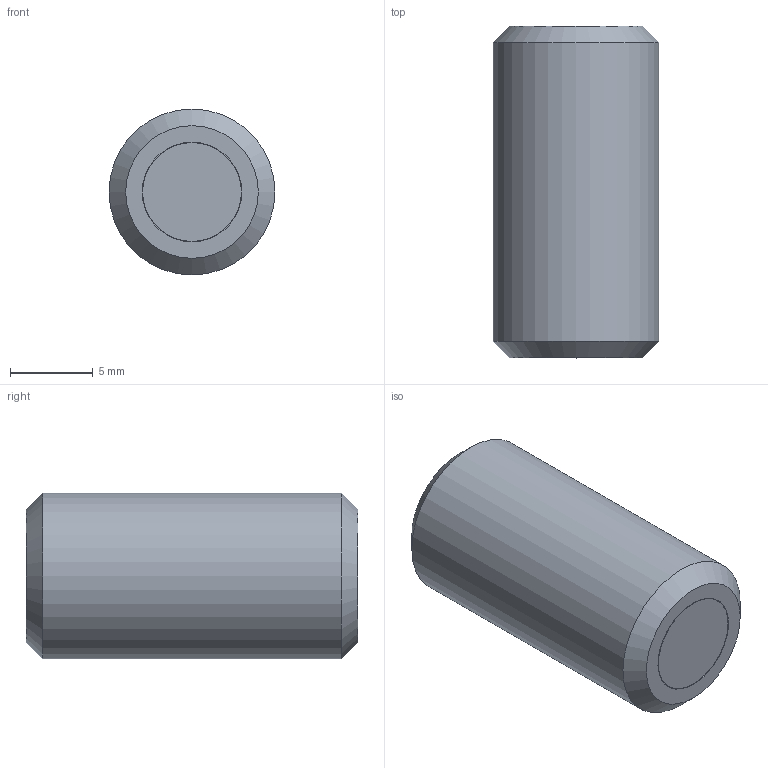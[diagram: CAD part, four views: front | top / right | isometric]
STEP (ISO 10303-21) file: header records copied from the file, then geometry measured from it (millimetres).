
FILE_DESCRIPTION(/* description */ ('STEP AP214'),/* implementation_level */ '2;1');
FILE_NAME(/* name */ 'Grub screw with retaining magnet GN 913.6-M10-20-ND',/* time_stamp */ '2023-10-03T11:26:49+02:00',/* author */ ('License CC BY-ND 4.0'),/* organization */ ('CADENAS'),/* preprocessor_version */ 'ST-DEVELOPER v19.3',/* originating_system */ 'PARTsolutions',/* authorisation */ ' ');
FILE_SCHEMA (('AUTOMOTIVE_DESIGN {1 0 10303 214 3 1 1}'));
Length unit declared in the file: millimetre
Products named in the file (1): Grub screw with retaining magnet GN 913.6-M10-20-ND
Bounding box: 10 x 20 x 10 mm (x, y, z)
Volume: 1428.5 mm3; surface area: 832.6 mm2
Topology: 1 solids, 1 shells, 22 faces, 46 edges, 28 vertices
Faces by surface type: plane 16, cone 3, cylinder 3
Full cylindrical faces by diameter (mm): 5.96 x1, 6 x1, 10 x1
Entity records: 566 total; most frequent: DIRECTION 98, CARTESIAN_POINT 88, ORIENTED_EDGE 76, EDGE_CURVE 38, AXIS2_PLACEMENT_3D 37, FACE_BOUND 31, EDGE_LOOP 30, VERTEX_POINT 27
